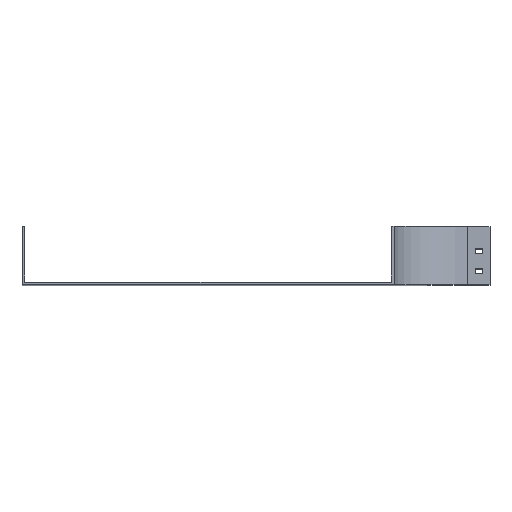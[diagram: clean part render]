
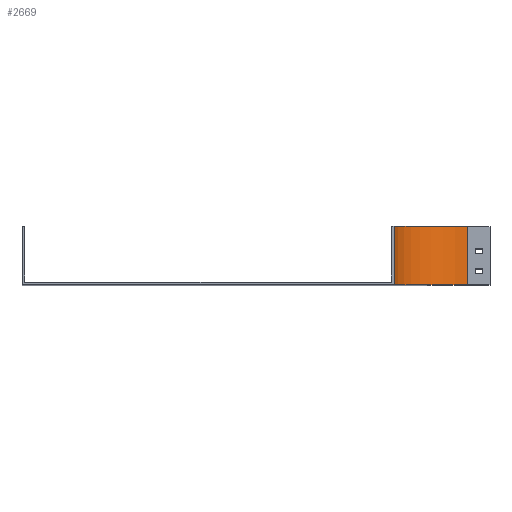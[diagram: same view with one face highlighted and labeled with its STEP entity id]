
A CAD part, top view. The second image highlights one B-rep face of the part: STEP entity #2669.
In plain terms, the highlighted cylindrical face has radius 100 mm (diameter 200 mm), a partial arc.
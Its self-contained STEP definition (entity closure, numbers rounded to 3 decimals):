
#39 = DIRECTION ( 'NONE',  ( 0., 0., -1. ) ) ;
#223 = FACE_OUTER_BOUND ( 'NONE', #1893, .T. ) ;
#268 = CARTESIAN_POINT ( 'NONE',  ( -100., 79., 0. ) ) ;
#282 = LINE ( 'NONE', #268, #883 ) ;
#355 = AXIS2_PLACEMENT_3D ( 'NONE', #1987, #495, #39 ) ;
#447 = CARTESIAN_POINT ( 'NONE',  ( 0., 79., -100. ) ) ;
#495 = DIRECTION ( 'NONE',  ( 0., -1., 0. ) ) ;
#507 = CARTESIAN_POINT ( 'NONE',  ( 0., 79., 0. ) ) ;
#661 = EDGE_CURVE ( 'NONE', #978, #1415, #282, .T. ) ;
#718 = LINE ( 'NONE', #2532, #1704 ) ;
#791 = AXIS2_PLACEMENT_3D ( 'NONE', #507, #1095, #1959 ) ;
#794 = EDGE_CURVE ( 'NONE', #978, #913, #1198, .T. ) ;
#797 = CARTESIAN_POINT ( 'NONE',  ( 0., 0., 0. ) ) ;
#883 = VECTOR ( 'NONE', #2002, 1000. ) ;
#886 = VERTEX_POINT ( 'NONE', #2326 ) ;
#913 = VERTEX_POINT ( 'NONE', #447 ) ;
#915 = CYLINDRICAL_SURFACE ( 'NONE', #355, 100. ) ;
#978 = VERTEX_POINT ( 'NONE', #2518 ) ;
#1019 = DIRECTION ( 'NONE',  ( 0., -1., 0. ) ) ;
#1095 = DIRECTION ( 'NONE',  ( 0., -1., 0. ) ) ;
#1163 = CARTESIAN_POINT ( 'NONE',  ( -100., 0., 0. ) ) ;
#1198 = CIRCLE ( 'NONE', #791, 100. ) ;
#1415 = VERTEX_POINT ( 'NONE', #1163 ) ;
#1484 = DIRECTION ( 'NONE',  ( 0., -1., 0. ) ) ;
#1536 = EDGE_CURVE ( 'NONE', #1415, #886, #2707, .T. ) ;
#1667 = ORIENTED_EDGE ( 'NONE', *, *, #2690, .F. ) ;
#1684 = ORIENTED_EDGE ( 'NONE', *, *, #1536, .T. ) ;
#1704 = VECTOR ( 'NONE', #1484, 1000. ) ;
#1868 = AXIS2_PLACEMENT_3D ( 'NONE', #797, #1019, #2459 ) ;
#1893 = EDGE_LOOP ( 'NONE', ( #1684, #1667, #2086, #2654 ) ) ;
#1959 = DIRECTION ( 'NONE',  ( 0., 0., -1. ) ) ;
#1987 = CARTESIAN_POINT ( 'NONE',  ( 0., 79., 0. ) ) ;
#2002 = DIRECTION ( 'NONE',  ( 0., -1., 0. ) ) ;
#2086 = ORIENTED_EDGE ( 'NONE', *, *, #794, .F. ) ;
#2326 = CARTESIAN_POINT ( 'NONE',  ( 0., 0., -100. ) ) ;
#2459 = DIRECTION ( 'NONE',  ( 0., 0., -1. ) ) ;
#2518 = CARTESIAN_POINT ( 'NONE',  ( -100., 79., 0. ) ) ;
#2532 = CARTESIAN_POINT ( 'NONE',  ( 0., 79., -100. ) ) ;
#2654 = ORIENTED_EDGE ( 'NONE', *, *, #661, .T. ) ;
#2669 = ADVANCED_FACE ( 'NONE', ( #223 ), #915, .F. ) ;
#2690 = EDGE_CURVE ( 'NONE', #913, #886, #718, .T. ) ;
#2707 = CIRCLE ( 'NONE', #1868, 100. ) ;
